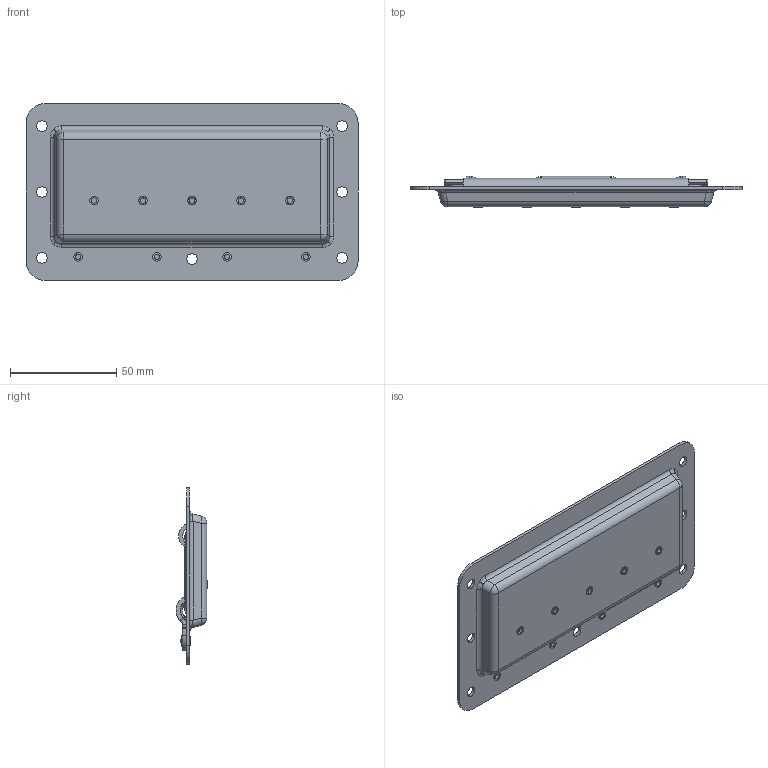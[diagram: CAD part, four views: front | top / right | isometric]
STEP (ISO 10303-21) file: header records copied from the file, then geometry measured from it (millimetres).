
FILE_DESCRIPTION (( 'STEP AP203' ), '1' );
FILE_NAME ('SK4-024-4B.STEP', '2018-11-02T05:17:23', ( 'admin' ), ( 'Microsoft' ), 'SwSTEP 2.0', 'SolidWorks 2015', '' );
FILE_SCHEMA (( 'CONFIG_CONTROL_DESIGN' ));
Length unit declared in the file: millimetre
Products named in the file (6): SK4-024-4B种隊; SK4-024-4B參忒; SK4-024-4B砎蝶杶; SK4-024-4B; SK4-024-4B蜇璃1
Assembly tree (13 placements, depth 2):
  SK4-024-4B
    SK4-024-4B
    SK4-024-4B蜇璃1
    SK4-024-4B种隊  x9
    SK4-024-4B參忒
    SK4-024-4B砎蝶杶
Bounding box: 156 x 15 x 83 mm (x, y, z)
Volume: 45747 mm3; surface area: 53115.8 mm2
Topology: 13 solids, 13 shells, 454 faces, 1040 edges, 626 vertices
Faces by surface type: cylinder 234, plane 94, bspline 53, sphere 34, torus 31, cone 8
Entity records: 11715 total; most frequent: CARTESIAN_POINT 3137, DIRECTION 1675, ORIENTED_EDGE 1602, EDGE_CURVE 801, AXIS2_PLACEMENT_3D 685, VERTEX_POINT 474, EDGE_LOOP 399, CIRCLE 380
